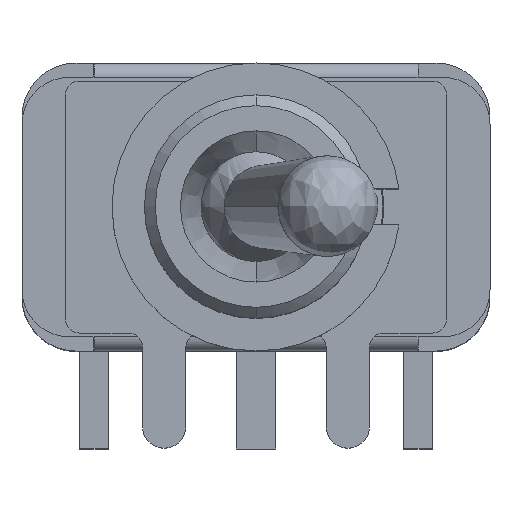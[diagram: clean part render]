
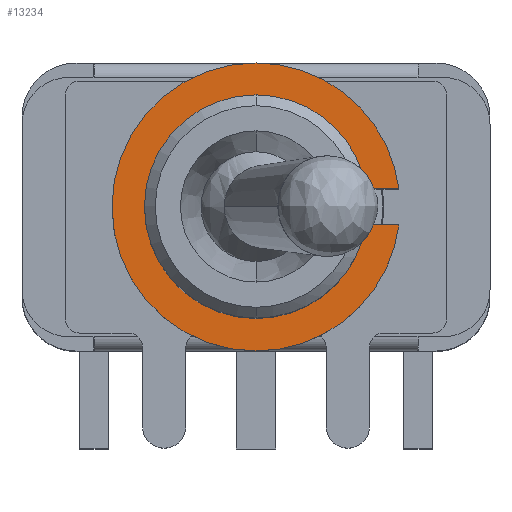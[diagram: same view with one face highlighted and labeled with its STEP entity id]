
A CAD part, top view. The second image highlights one B-rep face of the part: STEP entity #13234.
In plain terms, the highlighted planar face has unit normal (0, 0, 1) as drawn and (0, 1, 0) by its records, which use the part's own axes.
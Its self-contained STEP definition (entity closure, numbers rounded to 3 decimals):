
#15 = ORIENTED_EDGE ( 'NONE', *, *, #6229, .T. ) ;
#163 = CARTESIAN_POINT ( 'NONE',  ( 3.55, 1., 0. ) ) ;
#410 = AXIS2_PLACEMENT_3D ( 'NONE', #2531, #14378, #4872 ) ;
#570 = VECTOR ( 'NONE', #2971, 1000. ) ;
#576 = CARTESIAN_POINT ( 'NONE',  ( 0., 1., 0. ) ) ;
#735 = CARTESIAN_POINT ( 'NONE',  ( 2.905, 1., 0.5 ) ) ;
#773 = FACE_OUTER_BOUND ( 'NONE', #13432, .T. ) ;
#938 = LINE ( 'NONE', #7663, #570 ) ;
#997 = DIRECTION ( 'NONE',  ( 0., 1., 0. ) ) ;
#1199 = CIRCLE ( 'NONE', #13152, 3.1 ) ;
#1224 = ORIENTED_EDGE ( 'NONE', *, *, #10460, .F. ) ;
#1736 = DIRECTION ( 'NONE',  ( 0., 1., 0. ) ) ;
#2133 = CIRCLE ( 'NONE', #9931, 3.1 ) ;
#2488 = CARTESIAN_POINT ( 'NONE',  ( 3.059, 1., 0.5 ) ) ;
#2531 = CARTESIAN_POINT ( 'NONE',  ( 0., 1., 0. ) ) ;
#2655 = EDGE_CURVE ( 'NONE', #5297, #12342, #11057, .T. ) ;
#2915 = DIRECTION ( 'NONE',  ( 0., 1., 0. ) ) ;
#2957 = EDGE_CURVE ( 'NONE', #8422, #8182, #12715, .T. ) ;
#2971 = DIRECTION ( 'NONE',  ( 1., 0., 0. ) ) ;
#3450 = CARTESIAN_POINT ( 'NONE',  ( 0., 1., 0. ) ) ;
#3696 = CARTESIAN_POINT ( 'NONE',  ( 0., 1., -4. ) ) ;
#4112 = DIRECTION ( 'NONE',  ( 0., 0., -1. ) ) ;
#4198 = AXIS2_PLACEMENT_3D ( 'NONE', #4886, #13081, #14390 ) ;
#4371 = VERTEX_POINT ( 'NONE', #6315 ) ;
#4670 = CIRCLE ( 'NONE', #410, 4. ) ;
#4872 = DIRECTION ( 'NONE',  ( 0., 0., -1. ) ) ;
#4886 = CARTESIAN_POINT ( 'NONE',  ( 0., 1., 0. ) ) ;
#4950 = VECTOR ( 'NONE', #6731, 1000. ) ;
#4998 = AXIS2_PLACEMENT_3D ( 'NONE', #3450, #997, #8074 ) ;
#5297 = VERTEX_POINT ( 'NONE', #2488 ) ;
#6148 = EDGE_CURVE ( 'NONE', #8422, #4371, #938, .T. ) ;
#6229 = EDGE_CURVE ( 'NONE', #10514, #12342, #14145, .T. ) ;
#6247 = ORIENTED_EDGE ( 'NONE', *, *, #2957, .F. ) ;
#6315 = CARTESIAN_POINT ( 'NONE',  ( 3.969, 1., -0.5 ) ) ;
#6587 = DIRECTION ( 'NONE',  ( 0., 1., 0. ) ) ;
#6637 = ORIENTED_EDGE ( 'NONE', *, *, #6148, .T. ) ;
#6731 = DIRECTION ( 'NONE',  ( 1., 0., 0. ) ) ;
#6792 = VERTEX_POINT ( 'NONE', #3696 ) ;
#6955 = ORIENTED_EDGE ( 'NONE', *, *, #2655, .F. ) ;
#7435 = CARTESIAN_POINT ( 'NONE',  ( 0., 1., -3.1 ) ) ;
#7506 = DIRECTION ( 'NONE',  ( 0., 0., 1. ) ) ;
#7663 = CARTESIAN_POINT ( 'NONE',  ( 3.55, 1., -0.5 ) ) ;
#8074 = DIRECTION ( 'NONE',  ( 0., 0., -1. ) ) ;
#8182 = VERTEX_POINT ( 'NONE', #7435 ) ;
#8422 = VERTEX_POINT ( 'NONE', #8464 ) ;
#8464 = CARTESIAN_POINT ( 'NONE',  ( 3.059, 1., -0.5 ) ) ;
#8977 = CARTESIAN_POINT ( 'NONE',  ( 3.969, 1., 0.5 ) ) ;
#9291 = ORIENTED_EDGE ( 'NONE', *, *, #14913, .F. ) ;
#9826 = ORIENTED_EDGE ( 'NONE', *, *, #13608, .T. ) ;
#9887 = AXIS2_PLACEMENT_3D ( 'NONE', #163, #14518, #7506 ) ;
#9931 = AXIS2_PLACEMENT_3D ( 'NONE', #12623, #1736, #12524 ) ;
#10048 = CIRCLE ( 'NONE', #4198, 4. ) ;
#10153 = DIRECTION ( 'NONE',  ( 0., 0., -1. ) ) ;
#10228 = ORIENTED_EDGE ( 'NONE', *, *, #12516, .T. ) ;
#10460 = EDGE_CURVE ( 'NONE', #8182, #12299, #2133, .T. ) ;
#10514 = VERTEX_POINT ( 'NONE', #14075 ) ;
#11057 = LINE ( 'NONE', #735, #4950 ) ;
#12299 = VERTEX_POINT ( 'NONE', #13662 ) ;
#12342 = VERTEX_POINT ( 'NONE', #8977 ) ;
#12516 = EDGE_CURVE ( 'NONE', #6792, #10514, #4670, .T. ) ;
#12524 = DIRECTION ( 'NONE',  ( 0., 0., -1. ) ) ;
#12623 = CARTESIAN_POINT ( 'NONE',  ( 0., 1., 0. ) ) ;
#12715 = CIRCLE ( 'NONE', #4998, 3.1 ) ;
#13081 = DIRECTION ( 'NONE',  ( 0., 1., 0. ) ) ;
#13152 = AXIS2_PLACEMENT_3D ( 'NONE', #14933, #6587, #10153 ) ;
#13234 = ADVANCED_FACE ( 'NONE', ( #773 ), #14621, .T. ) ;
#13432 = EDGE_LOOP ( 'NONE', ( #6955, #9291, #1224, #6247, #6637, #9826, #10228, #15 ) ) ;
#13608 = EDGE_CURVE ( 'NONE', #4371, #6792, #10048, .T. ) ;
#13662 = CARTESIAN_POINT ( 'NONE',  ( 0., 1., 3.1 ) ) ;
#14075 = CARTESIAN_POINT ( 'NONE',  ( 0., 1., 4. ) ) ;
#14145 = CIRCLE ( 'NONE', #15159, 4. ) ;
#14378 = DIRECTION ( 'NONE',  ( 0., 1., 0. ) ) ;
#14390 = DIRECTION ( 'NONE',  ( 0., 0., -1. ) ) ;
#14518 = DIRECTION ( 'NONE',  ( 0., 1., 0. ) ) ;
#14621 = PLANE ( 'NONE',  #9887 ) ;
#14913 = EDGE_CURVE ( 'NONE', #12299, #5297, #1199, .T. ) ;
#14933 = CARTESIAN_POINT ( 'NONE',  ( 0., 1., 0. ) ) ;
#15159 = AXIS2_PLACEMENT_3D ( 'NONE', #576, #2915, #4112 ) ;
